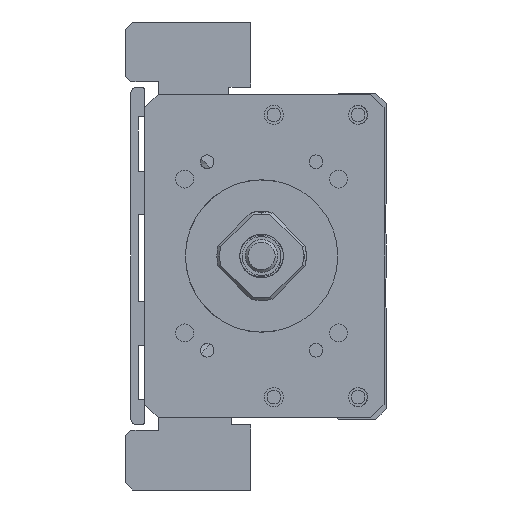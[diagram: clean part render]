
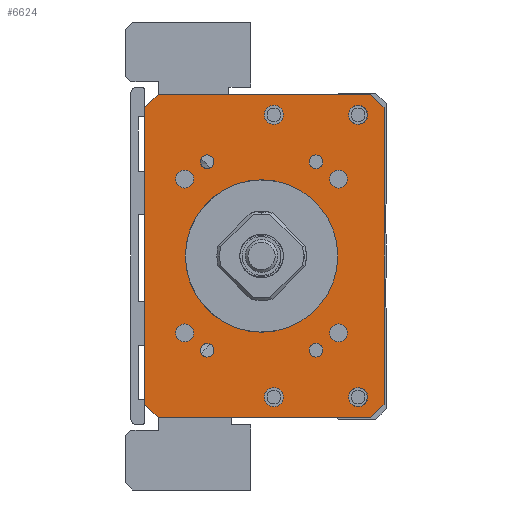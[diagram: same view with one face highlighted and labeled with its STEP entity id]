
A CAD part, left-side view. The second image highlights one B-rep face of the part: STEP entity #6624.
In plain terms, the highlighted planar face has unit normal (-1, 0, 0).
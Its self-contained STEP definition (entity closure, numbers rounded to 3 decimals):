
#186=LINE('',#19362,#1115);
#188=LINE('',#19386,#1117);
#189=LINE('',#19388,#1118);
#190=LINE('',#19390,#1119);
#191=LINE('',#19392,#1120);
#192=LINE('',#19394,#1121);
#193=LINE('',#19396,#1122);
#194=LINE('',#19398,#1123);
#1115=VECTOR('',#16158,1.);
#1117=VECTOR('',#16182,1.);
#1118=VECTOR('',#16183,1.);
#1119=VECTOR('',#16184,1.);
#1120=VECTOR('',#16185,1.);
#1121=VECTOR('',#16186,1.);
#1122=VECTOR('',#16187,1.);
#1123=VECTOR('',#16188,1.);
#6170=FACE_BOUND('',#8179,.T.);
#6171=FACE_BOUND('',#8180,.T.);
#6172=FACE_BOUND('',#8181,.T.);
#6173=FACE_BOUND('',#8182,.T.);
#6174=FACE_BOUND('',#8183,.T.);
#6175=FACE_BOUND('',#8184,.T.);
#6176=FACE_BOUND('',#8185,.T.);
#6177=FACE_BOUND('',#8186,.T.);
#6178=FACE_BOUND('',#8187,.T.);
#6179=FACE_BOUND('',#8188,.T.);
#6180=FACE_BOUND('',#8189,.T.);
#6181=FACE_BOUND('',#8190,.T.);
#6182=FACE_BOUND('',#8191,.T.);
#6183=FACE_BOUND('',#8192,.T.);
#6624=ADVANCED_FACE('',(#6170,#6171,#6172,#6173,#6174,#6175,#6176,#6177,
#6178,#6179,#6180,#6181,#6182,#6183),#7279,.F.);
#7279=PLANE('',#15069);
#8179=EDGE_LOOP('',(#9133));
#8180=EDGE_LOOP('',(#9134));
#8181=EDGE_LOOP('',(#9135));
#8182=EDGE_LOOP('',(#9136));
#8183=EDGE_LOOP('',(#9137));
#8184=EDGE_LOOP('',(#9138));
#8185=EDGE_LOOP('',(#9139));
#8186=EDGE_LOOP('',(#9140));
#8187=EDGE_LOOP('',(#9141));
#8188=EDGE_LOOP('',(#9142,#9143,#9144,#9145,#9146,#9147,#9148,#9149));
#8189=EDGE_LOOP('',(#9150));
#8190=EDGE_LOOP('',(#9151));
#8191=EDGE_LOOP('',(#9152));
#8192=EDGE_LOOP('',(#9153));
#9133=ORIENTED_EDGE('',*,*,#13177,.F.);
#9134=ORIENTED_EDGE('',*,*,#13178,.F.);
#9135=ORIENTED_EDGE('',*,*,#13179,.F.);
#9136=ORIENTED_EDGE('',*,*,#13180,.F.);
#9137=ORIENTED_EDGE('',*,*,#13181,.F.);
#9138=ORIENTED_EDGE('',*,*,#13182,.T.);
#9139=ORIENTED_EDGE('',*,*,#13183,.F.);
#9140=ORIENTED_EDGE('',*,*,#13184,.F.);
#9141=ORIENTED_EDGE('',*,*,#13185,.F.);
#9142=ORIENTED_EDGE('',*,*,#13174,.T.);
#9143=ORIENTED_EDGE('',*,*,#13186,.T.);
#9144=ORIENTED_EDGE('',*,*,#13187,.F.);
#9145=ORIENTED_EDGE('',*,*,#13188,.T.);
#9146=ORIENTED_EDGE('',*,*,#13189,.F.);
#9147=ORIENTED_EDGE('',*,*,#13190,.T.);
#9148=ORIENTED_EDGE('',*,*,#13191,.T.);
#9149=ORIENTED_EDGE('',*,*,#13192,.T.);
#9150=ORIENTED_EDGE('',*,*,#13193,.F.);
#9151=ORIENTED_EDGE('',*,*,#13194,.F.);
#9152=ORIENTED_EDGE('',*,*,#13195,.F.);
#9153=ORIENTED_EDGE('',*,*,#13154,.F.);
#12096=VERTEX_POINT('',#19301);
#12116=VERTEX_POINT('',#19361);
#12117=VERTEX_POINT('',#19363);
#12119=VERTEX_POINT('',#19369);
#12120=VERTEX_POINT('',#19371);
#12121=VERTEX_POINT('',#19373);
#12122=VERTEX_POINT('',#19375);
#12123=VERTEX_POINT('',#19377);
#12124=VERTEX_POINT('',#19379);
#12125=VERTEX_POINT('',#19381);
#12126=VERTEX_POINT('',#19383);
#12127=VERTEX_POINT('',#19385);
#12128=VERTEX_POINT('',#19387);
#12129=VERTEX_POINT('',#19389);
#12130=VERTEX_POINT('',#19391);
#12131=VERTEX_POINT('',#19393);
#12132=VERTEX_POINT('',#19395);
#12133=VERTEX_POINT('',#19397);
#12134=VERTEX_POINT('',#19400);
#12135=VERTEX_POINT('',#19402);
#12136=VERTEX_POINT('',#19404);
#13154=EDGE_CURVE('',#12096,#12096,#14654,.T.);
#13174=EDGE_CURVE('',#12117,#12116,#186,.T.);
#13177=EDGE_CURVE('',#12119,#12119,#14663,.T.);
#13178=EDGE_CURVE('',#12120,#12120,#14664,.T.);
#13179=EDGE_CURVE('',#12121,#12121,#14665,.T.);
#13180=EDGE_CURVE('',#12122,#12122,#14666,.T.);
#13181=EDGE_CURVE('',#12123,#12123,#14667,.T.);
#13182=EDGE_CURVE('',#12124,#12124,#14668,.T.);
#13183=EDGE_CURVE('',#12125,#12125,#14669,.T.);
#13184=EDGE_CURVE('',#12126,#12126,#14670,.T.);
#13185=EDGE_CURVE('',#12127,#12127,#14671,.T.);
#13186=EDGE_CURVE('',#12116,#12128,#188,.T.);
#13187=EDGE_CURVE('',#12129,#12128,#189,.T.);
#13188=EDGE_CURVE('',#12129,#12130,#190,.T.);
#13189=EDGE_CURVE('',#12131,#12130,#191,.T.);
#13190=EDGE_CURVE('',#12131,#12132,#192,.T.);
#13191=EDGE_CURVE('',#12132,#12133,#193,.T.);
#13192=EDGE_CURVE('',#12133,#12117,#194,.T.);
#13193=EDGE_CURVE('',#12134,#12134,#14672,.T.);
#13194=EDGE_CURVE('',#12135,#12135,#14673,.T.);
#13195=EDGE_CURVE('',#12136,#12136,#14674,.T.);
#14654=CIRCLE('',#15046,14.);
#14663=CIRCLE('',#15057,1.65);
#14664=CIRCLE('',#15058,1.65);
#14665=CIRCLE('',#15059,1.65);
#14666=CIRCLE('',#15060,1.65);
#14667=CIRCLE('',#15061,1.25);
#14668=CIRCLE('',#15062,1.75);
#14669=CIRCLE('',#15063,1.25);
#14670=CIRCLE('',#15064,1.75);
#14671=CIRCLE('',#15065,1.25);
#14672=CIRCLE('',#15066,1.75);
#14673=CIRCLE('',#15067,1.75);
#14674=CIRCLE('',#15068,1.25);
#15046=AXIS2_PLACEMENT_3D('',#19300,#16132,#16133);
#15057=AXIS2_PLACEMENT_3D('',#19368,#16164,#16165);
#15058=AXIS2_PLACEMENT_3D('',#19370,#16166,#16167);
#15059=AXIS2_PLACEMENT_3D('',#19372,#16168,#16169);
#15060=AXIS2_PLACEMENT_3D('',#19374,#16170,#16171);
#15061=AXIS2_PLACEMENT_3D('',#19376,#16172,#16173);
#15062=AXIS2_PLACEMENT_3D('',#19378,#16174,#16175);
#15063=AXIS2_PLACEMENT_3D('',#19380,#16176,#16177);
#15064=AXIS2_PLACEMENT_3D('',#19382,#16178,#16179);
#15065=AXIS2_PLACEMENT_3D('',#19384,#16180,#16181);
#15066=AXIS2_PLACEMENT_3D('',#19399,#16189,#16190);
#15067=AXIS2_PLACEMENT_3D('',#19401,#16191,#16192);
#15068=AXIS2_PLACEMENT_3D('',#19403,#16193,#16194);
#15069=AXIS2_PLACEMENT_3D('',#19405,#16195,#16196);
#16132=DIRECTION('',(-1.,0.,0.));
#16133=DIRECTION('',(0.,1.,0.));
#16158=DIRECTION('',(0.,0.,-1.));
#16164=DIRECTION('',(-1.,0.,0.));
#16165=DIRECTION('',(0.,0.,1.));
#16166=DIRECTION('',(-1.,0.,0.));
#16167=DIRECTION('',(0.,0.,1.));
#16168=DIRECTION('',(-1.,0.,0.));
#16169=DIRECTION('',(0.,0.,1.));
#16170=DIRECTION('',(-1.,0.,0.));
#16171=DIRECTION('',(0.,0.,1.));
#16172=DIRECTION('',(-1.,0.,0.));
#16173=DIRECTION('',(0.,1.,0.));
#16174=DIRECTION('',(1.,0.,0.));
#16175=DIRECTION('',(0.,0.,1.));
#16176=DIRECTION('',(-1.,0.,0.));
#16177=DIRECTION('',(0.,1.,0.));
#16178=DIRECTION('',(-1.,0.,0.));
#16179=DIRECTION('',(0.,0.,1.));
#16180=DIRECTION('',(-1.,0.,0.));
#16181=DIRECTION('',(0.,1.,0.));
#16182=DIRECTION('',(0.,-0.707,-0.707));
#16183=DIRECTION('',(0.,1.,0.));
#16184=DIRECTION('',(0.,-0.707,0.707));
#16185=DIRECTION('',(0.,0.,-1.));
#16186=DIRECTION('',(0.,0.707,0.707));
#16187=DIRECTION('',(0.,1.,0.));
#16188=DIRECTION('',(0.,0.707,-0.707));
#16189=DIRECTION('',(-1.,0.,0.));
#16190=DIRECTION('',(0.,0.,1.));
#16191=DIRECTION('',(-1.,0.,0.));
#16192=DIRECTION('',(0.,0.,1.));
#16193=DIRECTION('',(-1.,0.,0.));
#16194=DIRECTION('',(0.,1.,0.));
#16195=DIRECTION('',(1.,0.,0.));
#16196=DIRECTION('',(0.,1.,0.));
#19300=CARTESIAN_POINT('',(-211.,0.,-400.));
#19301=CARTESIAN_POINT('',(-211.,14.,-400.));
#19361=CARTESIAN_POINT('',(-211.,21.499,-427.25));
#19362=CARTESIAN_POINT('',(-211.,21.499,-370.25));
#19363=CARTESIAN_POINT('',(-211.,21.499,-372.75));
#19368=CARTESIAN_POINT('',(-211.,14.142,-385.858));
#19369=CARTESIAN_POINT('',(-211.,14.142,-384.208));
#19370=CARTESIAN_POINT('',(-211.,-14.142,-385.858));
#19371=CARTESIAN_POINT('',(-211.,-14.142,-384.208));
#19372=CARTESIAN_POINT('',(-211.,14.142,-414.142));
#19373=CARTESIAN_POINT('',(-211.,14.142,-412.492));
#19374=CARTESIAN_POINT('',(-211.,-14.142,-414.142));
#19375=CARTESIAN_POINT('',(-211.,-14.142,-412.492));
#19376=CARTESIAN_POINT('',(-211.,-10.,-417.321));
#19377=CARTESIAN_POINT('',(-211.,-8.75,-417.321));
#19378=CARTESIAN_POINT('',(-211.,-2.25,-425.936));
#19379=CARTESIAN_POINT('',(-211.,-2.25,-424.186));
#19380=CARTESIAN_POINT('',(-211.,10.,-382.679));
#19381=CARTESIAN_POINT('',(-211.,11.25,-382.679));
#19382=CARTESIAN_POINT('',(-211.,-2.25,-374.064));
#19383=CARTESIAN_POINT('',(-211.,-2.25,-372.314));
#19384=CARTESIAN_POINT('',(-211.,10.,-417.321));
#19385=CARTESIAN_POINT('',(-211.,11.25,-417.321));
#19386=CARTESIAN_POINT('',(-211.,18.999,-429.75));
#19387=CARTESIAN_POINT('',(-211.,18.999,-429.75));
#19388=CARTESIAN_POINT('',(-211.,-22.501,-429.75));
#19389=CARTESIAN_POINT('',(-211.,-20.001,-429.75));
#19390=CARTESIAN_POINT('',(-211.,-22.501,-427.25));
#19391=CARTESIAN_POINT('',(-211.,-22.501,-427.25));
#19392=CARTESIAN_POINT('',(-211.,-22.501,-370.25));
#19393=CARTESIAN_POINT('',(-211.,-22.501,-372.75));
#19394=CARTESIAN_POINT('',(-211.,-22.501,-372.75));
#19395=CARTESIAN_POINT('',(-211.,-20.001,-370.25));
#19396=CARTESIAN_POINT('',(-211.,-22.501,-370.25));
#19397=CARTESIAN_POINT('',(-211.,18.999,-370.25));
#19398=CARTESIAN_POINT('',(-211.,18.999,-370.25));
#19399=CARTESIAN_POINT('',(-211.,-17.75,-374.064));
#19400=CARTESIAN_POINT('',(-211.,-17.75,-372.314));
#19401=CARTESIAN_POINT('',(-211.,-17.75,-425.936));
#19402=CARTESIAN_POINT('',(-211.,-17.75,-424.186));
#19403=CARTESIAN_POINT('',(-211.,-10.,-382.679));
#19404=CARTESIAN_POINT('',(-211.,-8.75,-382.679));
#19405=CARTESIAN_POINT('',(-211.,-22.501,-370.25));
